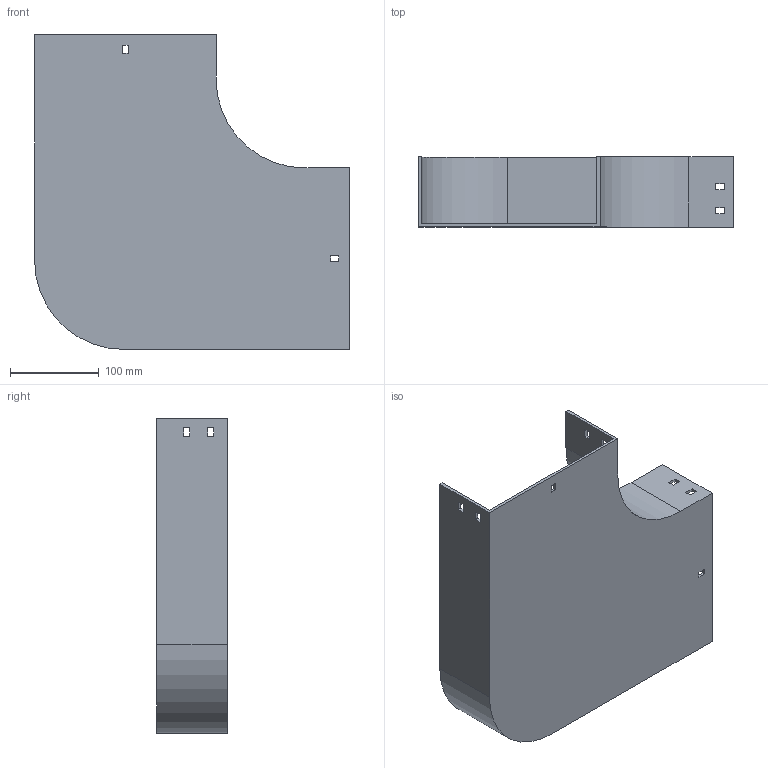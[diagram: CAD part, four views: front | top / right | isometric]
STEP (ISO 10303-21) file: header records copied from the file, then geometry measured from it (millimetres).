
FILE_DESCRIPTION (( 'STEP AP214' ), '1' );
FILE_NAME ('10B1C200.step', '2025-02-21T09:41:36', ( '' ), ( '' ), 'SwSTEP 2.0', 'SolidWorks 2023', '' );
FILE_SCHEMA (( 'AUTOMOTIVE_DESIGN' ));
Length unit declared in the file: millimetre
Products named in the file (1): 10B1C200
Bounding box: 354 x 79 x 354 mm (x, y, z)
Volume: 601167.1 mm3; surface area: 350405.6 mm2
Topology: 1 solids, 1 shells, 58 faces, 168 edges, 112 vertices
Faces by surface type: plane 54, cylinder 4
Entity records: 1943 total; most frequent: CARTESIAN_POINT 339, ORIENTED_EDGE 336, DIRECTION 294, EDGE_CURVE 168, LINE 160, VECTOR 160, VERTEX_POINT 112, EDGE_LOOP 78
